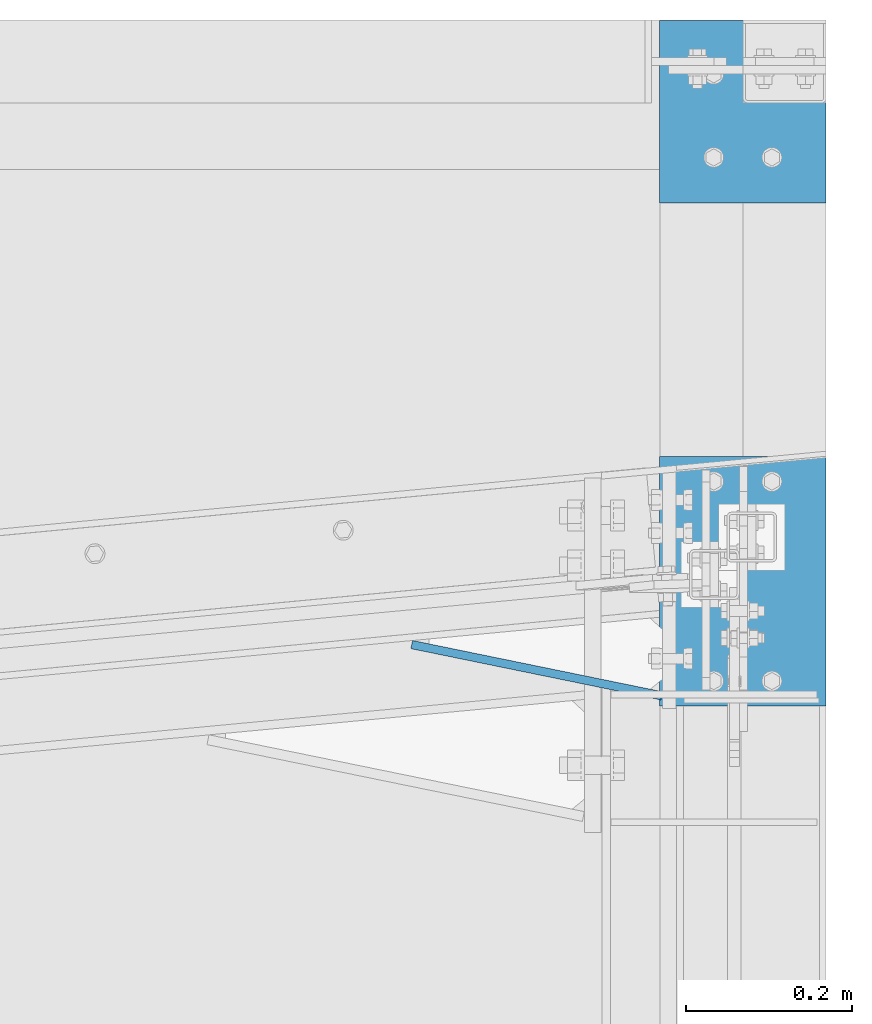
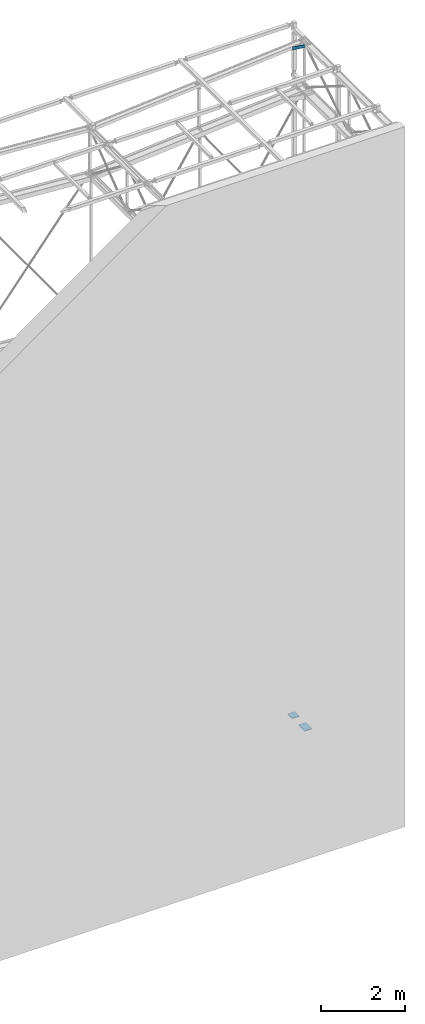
# One storey, part 89 of 271: 3 beams, 3 elements without a shape of their own.
"""IFC2X3 building model written with IfcOpenShell, lengths in millimetres."""

from ifc_helpers import new_model, si_unit, frame, origin_with_axes, origin_2d_with_axis, place, context, subcontext, project, spatial, rectangle, extrude, material, type_object, element, aggregate, save


model = new_model("IFC2X3")

# Units and contexts
model_context = context("Model", 3, precision=1e-05, world=origin_with_axes())
body_context = subcontext(model_context, "Body", "Model", "MODEL_VIEW")
ifc_project = project(units=[si_unit("LENGTHUNIT", "METRE", prefix="MILLI"), si_unit("AREAUNIT", "SQUARE_METRE"), si_unit("VOLUMEUNIT", "CUBIC_METRE"), si_unit("MASSUNIT", "GRAM", prefix="KILO"), si_unit("TIMEUNIT", "SECOND"), si_unit("PLANEANGLEUNIT", "RADIAN"), si_unit("SOLIDANGLEUNIT", "STERADIAN"), si_unit("THERMODYNAMICTEMPERATUREUNIT", "DEGREE_CELSIUS"), si_unit("LUMINOUSINTENSITYUNIT", "LUMEN")], contexts=[model_context])

# Site, building, storey
site_placement = place(None, origin_with_axes())
site = spatial("IfcSite", under=ifc_project, at=site_placement, Name="Undefined", CompositionType="ELEMENT")
building_placement = place(site_placement, origin_with_axes())
building = spatial("IfcBuilding", under=site, at=building_placement, Name="Undefined", CompositionType="ELEMENT")
storey_placement = place(building_placement, origin_with_axes())
storey = spatial("IfcBuildingStorey", under=building, at=storey_placement, Name="Undefined", CompositionType="ELEMENT", Elevation=0.0)

# Assembly, beam
assembly_1_placement = place(storey_placement, origin_with_axes())
assembly_1 = element("IfcElementAssembly", 1, at=assembly_1_placement, inside=storey, Name="BELKA", AssemblyPlace="NOTDEFINED", PredefinedType="RIGID_FRAME")
ifc_material = material(Name="STEEL/S355JR")
beam_type_1 = type_object("IfcBeamType", Name="PL220*16", PredefinedType="NOTDEFINED")
beam_1_placement = place(assembly_1_placement, frame((12508.0, 4849.0, -8.0), z_axis=(0.0, -1.0, 0.0), x_axis=(1.0, 0.0, 0.0)))
beam_1 = element("IfcBeam", 2, at=beam_1_placement, type_object=beam_type_1, material=ifc_material, Name="BELKA", ObjectType="PL220*16", context=body_context, shape_type="SweptSolid", body=[
    extrude(rectangle(XDim=16.0, YDim=220.0, at=origin_2d_with_axis()), frame((200.0, 0.0, 0.0), z_axis=(-1.0, 0.0, 1.38777878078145e-17), x_axis=(0.0, -1.0, 0.0)), (0.0, 0.0, 1.0), 200.0),
])
aggregate(assembly_1, [beam_1])

assembly_2_placement = place(storey_placement, origin_with_axes())
assembly_2 = element("IfcElementAssembly", 3, at=assembly_2_placement, inside=storey, Name="BELKA", AssemblyPlace="NOTDEFINED", PredefinedType="RIGID_FRAME")
beam_type_2 = type_object("IfcBeamType", Name="PL300*16", PredefinedType="NOTDEFINED")
beam_2_placement = place(assembly_2_placement, frame((12508.0, 4284.0, -8.0), z_axis=(0.0, -1.0, 0.0), x_axis=(1.0, 0.0, 0.0)))
beam_2 = element("IfcBeam", 4, at=beam_2_placement, type_object=beam_type_2, material=ifc_material, Name="BELKA", ObjectType="PL300*16", context=body_context, shape_type="SweptSolid", body=[
    extrude(rectangle(XDim=16.0, YDim=300.0, at=origin_2d_with_axis()), frame((200.0, 0.0, 0.0), z_axis=(-1.0, 0.0, 1.38777878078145e-17), x_axis=(0.0, -1.0, 0.0)), (0.0, 0.0, 1.0), 200.0),
])
aggregate(assembly_2, [beam_2])

assembly_3_placement = place(storey_placement, origin_with_axes())
assembly_3 = element("IfcElementAssembly", 5, at=assembly_3_placement, inside=storey, AssemblyPlace="NOTDEFINED", PredefinedType="RIGID_FRAME")
beam_type_3 = type_object("IfcBeamType", Name="BL10*91", PredefinedType="NOTDEFINED")
beam_3_placement = place(assembly_3_placement, frame((12510.3719855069, 4146.24146731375, 20004.3499999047), z_axis=(0.0, 0.0, -1.0), x_axis=(-0.979644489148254, 0.200740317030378, 0.0)))
beam_3 = element("IfcBeam", 6, at=beam_3_placement, type_object=beam_type_3, material=ifc_material, Name="BLACHA", ObjectType="BL10*91", context=body_context, shape_type="SweptSolid", body=[
    extrude(rectangle(XDim=10.0, YDim=91.0, at=origin_2d_with_axis()), frame((306.999999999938, 0.0, 3.63797880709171e-12), z_axis=(-1.0, 0.0, 1.38777878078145e-17), x_axis=(0.0, -1.0, 0.0)), (0.0, 0.0, 1.0), 307.0),
])
aggregate(assembly_3, [beam_3])

save(model, "model.ifc")
